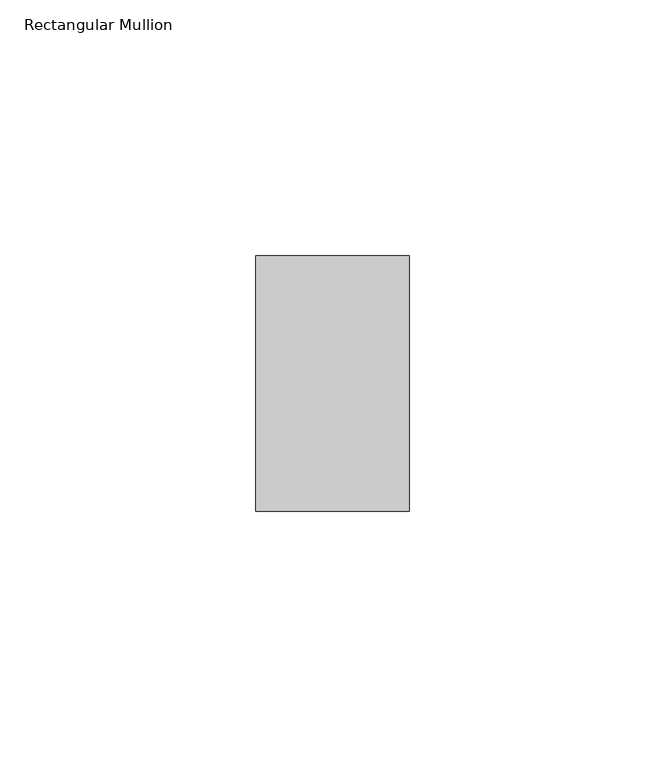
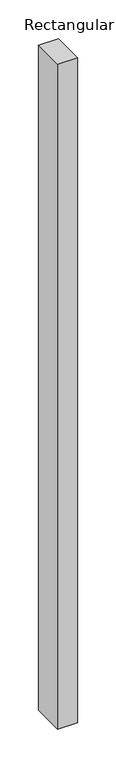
"""IFC4 building model written with IfcOpenShell, lengths in millimetres: member geometry, Rectangular Mullion : ARQ_TV_MULL_50x30mm."""

import ifcopenshell
import ifcopenshell.guid

model = None  # the IFC model being written
_history = None  # IfcOwnerHistory: only IFC2X3 demands one
_inside = {}  # id of a spatial element -> (the spatial element, [elements in it])
_under = {}  # id of a project, library or spatial element -> (it, [spatial elements below it])
_declared = {}  # id of a project -> (the project, [libraries it declares])
_typed = {}  # id of a type object -> (the type object, [elements of that type])
_made_of = {}  # id of a material, layer set ... -> (it, [elements and type objects made of it])


def new_model(schema):
    """Start an empty IFC model of exactly this schema.

    Asked for "IFC4X3", IfcOpenShell would pick the latest addendum, in which some entities
    have other attributes; the version numbers below select the first issue.
    IFC2X3 requires an IfcOwnerHistory on every rooted entity: one is made here for all.
    """
    global model, _history
    if schema == "IFC4X3":
        model = ifcopenshell.file(schema_version=(4, 3, 0, 0))
    else:
        model = ifcopenshell.file(schema=schema)
    _inside.clear()
    _under.clear()
    _declared.clear()
    _typed.clear()
    _made_of.clear()
    _history = None
    if model.schema == "IFC2X3":
        org = make("IfcOrganization", Name="unknown")
        user = make(
            "IfcPersonAndOrganization",
            ThePerson=make("IfcPerson", FamilyName="unknown"),
            TheOrganization=org,
        )
        app = make(
            "IfcApplication",
            ApplicationDeveloper=org,
            Version="unknown",
            ApplicationFullName="unknown",
            ApplicationIdentifier="unknown",
        )
        _history = make(
            "IfcOwnerHistory",
            OwningUser=user,
            OwningApplication=app,
            ChangeAction="ADDED",
            CreationDate=0,
        )
    return model


def make(cls, **values):
    """One entity of the class cls with the attributes given. An attribute that is None is left unset."""
    return model.create_entity(
        cls, **{name: value for name, value in values.items() if value is not None}
    )


def rooted(cls, **values):
    """An entity with a GlobalId (a new one), such as an element, a storey or a relation."""
    return make(cls, GlobalId=ifcopenshell.guid.new(), OwnerHistory=_history, **values)


def si_unit(unit_type, name, prefix=None):
    """IfcSIUnit, for example si_unit("LENGTHUNIT", "METRE", prefix="MILLI")."""
    return make("IfcSIUnit", UnitType=unit_type, Prefix=prefix, Name=name)


def assignment(units):
    """IfcUnitAssignment: the units of a project."""
    return None if units is None else make("IfcUnitAssignment", Units=units)


def point(xyz):
    """IfcCartesianPoint."""
    return None if xyz is None else make("IfcCartesianPoint", Coordinates=xyz)


def direction(xyz):
    """IfcDirection."""
    return None if xyz is None else make("IfcDirection", DirectionRatios=xyz)


def frame(location, z_axis=None, x_axis=None):
    """IfcAxis2Placement3D, a coordinate frame: its origin and axes. An axis left out is left unset."""
    return make(
        "IfcAxis2Placement3D",
        Location=point(location),
        Axis=direction(z_axis),
        RefDirection=direction(x_axis),
    )


def origin():
    """The frame at (0, 0, 0) with its axes left unset."""
    return frame((0.0, 0.0, 0.0))


def place(relative_to, where):
    """IfcLocalPlacement: puts the frame where relative to a parent placement (None: the world)."""
    return make(
        "IfcLocalPlacement", PlacementRelTo=relative_to, RelativePlacement=where
    )


def context(
    kind, dimensions, precision=None, world=None, true_north=None, identifier=None
):
    """IfcGeometricRepresentationContext, for example the 3D "Model" context."""
    return make(
        "IfcGeometricRepresentationContext",
        ContextIdentifier=identifier,
        ContextType=kind,
        CoordinateSpaceDimension=dimensions,
        Precision=precision,
        WorldCoordinateSystem=world,
        TrueNorth=true_north,
    )


def project(units=None, contexts=None):
    """IfcProject with its units and contexts."""
    return rooted(
        "IfcProject",
        Name="project",
        RepresentationContexts=contexts,
        UnitsInContext=assignment(units),
    )


def spatial(cls, under=None, at=None, **own):
    """A site, building, storey or space (cls), placed at a placement, below another one or the project."""
    s = rooted(cls, ObjectPlacement=at, **own)
    if under is not None:
        _under.setdefault(under.id(), (under, []))[1].append(s)
    return s


def polyline(points):
    """IfcPolyline through the points."""
    return make("IfcPolyline", Points=[point(p) for p in points])


def outline(outer, holes=None, kind="AREA"):
    """IfcArbitraryClosedProfileDef: a profile drawn as a closed curve; with holes, ...WithVoids."""
    if holes is None:
        return make("IfcArbitraryClosedProfileDef", ProfileType=kind, OuterCurve=outer)
    return make(
        "IfcArbitraryProfileDefWithVoids",
        ProfileType=kind,
        OuterCurve=outer,
        InnerCurves=holes,
    )


def extrude(swept, where, along, depth):
    """IfcExtrudedAreaSolid: the profile swept, set in the frame where, extruded along a direction by depth."""
    return make(
        "IfcExtrudedAreaSolid",
        SweptArea=swept,
        Position=where,
        ExtrudedDirection=direction(along),
        Depth=depth,
    )


def shape(context_of_items, identifier, shape_type, items):
    """IfcShapeRepresentation: the items that make up one representation, for example the "Body"."""
    return make(
        "IfcShapeRepresentation",
        ContextOfItems=context_of_items,
        RepresentationIdentifier=identifier,
        RepresentationType=shape_type,
        Items=items,
    )


def source(mapping_origin, context_of_items, identifier, shape_type, items):
    """IfcRepresentationMap: a shape defined once, which mapped items show again and again."""
    return make(
        "IfcRepresentationMap",
        MappingOrigin=mapping_origin,
        MappedRepresentation=shape(context_of_items, identifier, shape_type, items),
    )


def transform(
    local_origin,
    x_axis=None,
    y_axis=None,
    z_axis=None,
    scale=None,
    scale2=None,
    scale3=None,
    uniform=True,
):
    """IfcCartesianTransformationOperator3D, or its non-uniform kind. x_axis, y_axis, z_axis: its Axis1, 2, 3."""
    if uniform:
        return make(
            "IfcCartesianTransformationOperator3D",
            Axis1=direction(x_axis),
            Axis2=direction(y_axis),
            LocalOrigin=point(local_origin),
            Scale=scale,
            Axis3=direction(z_axis),
        )
    return make(
        "IfcCartesianTransformationOperator3DnonUniform",
        Axis1=direction(x_axis),
        Axis2=direction(y_axis),
        LocalOrigin=point(local_origin),
        Scale=scale,
        Axis3=direction(z_axis),
        Scale2=scale2,
        Scale3=scale3,
    )


def mapped(mapping_source, mapping_target):
    """IfcMappedItem: shows the shape of a source again, moved by a transform."""
    return make(
        "IfcMappedItem", MappingSource=mapping_source, MappingTarget=mapping_target
    )


def made_of(thing, what):
    """Note that an element or type object is made of a material, layer set ...; save() writes the relation."""
    if what is not None:
        _made_of.setdefault(what.id(), (what, []))[1].append(thing)
    return thing


def element(
    cls,
    number,
    at=None,
    inside=None,
    cuts=None,
    type_object=None,
    material=None,
    context=None,
    identifier="Body",
    shape_type=None,
    held_by="IfcProductDefinitionShape",
    body=None,
    shapes=None,
    **own,
):
    """One element of the class cls, such as IfcWall. Its Tag is "e" and its number.

    at: its placement. inside: the storey or other place that contains it. cuts: it is an
    opening in that element (IfcRelVoidsElement). A single representation is given by context,
    identifier, shape_type and body (its items); several are given by shapes. held_by: the class
    of the entity that holds the representations. save() writes the other relations.
    """
    e = rooted(cls, Tag="e%d" % number, ObjectPlacement=at, **own)
    if body is not None:
        shapes = [shape(context, identifier, shape_type, body)]
    if shapes is not None:
        e.Representation = make(held_by, Representations=shapes)
    if inside is not None:
        _inside.setdefault(inside.id(), (inside, []))[1].append(e)
    if cuts is not None:
        rooted(
            "IfcRelVoidsElement", RelatingBuildingElement=cuts, RelatedOpeningElement=e
        )
    if type_object is not None:
        _typed.setdefault(type_object.id(), (type_object, []))[1].append(e)
    return made_of(e, material)


def aggregate(whole, parts):
    """IfcRelAggregates: a whole, such as a stair, and the parts it consists of."""
    return rooted("IfcRelAggregates", RelatingObject=whole, RelatedObjects=parts)


def save(model, path):
    """Write the relations noted so far, then the file.

    IfcRelAggregates (storeys below a building ...), IfcRelContainedInSpatialStructure (elements
    in a storey), IfcRelDefinesByType, IfcRelAssociatesMaterial and IfcRelDeclares: one each for
    every whole, place, type object, material and project.
    """
    for whole, parts in _under.values():
        aggregate(whole, parts)
    for where, things in _inside.values():
        rooted(
            "IfcRelContainedInSpatialStructure",
            RelatedElements=things,
            RelatingStructure=where,
        )
    for kind, things in _typed.values():
        rooted("IfcRelDefinesByType", RelatedObjects=things, RelatingType=kind)
    for what, things in _made_of.values():
        rooted("IfcRelAssociatesMaterial", RelatedObjects=things, RelatingMaterial=what)
    for by, libraries in _declared.values():
        rooted("IfcRelDeclares", RelatingContext=by, RelatedDefinitions=libraries)
    model.write(path)


def rectangular_mullion_550d9bc0(model_context):
    return source(origin(), model_context, "Body", "SweptSolid", [
        extrude(outline(polyline([(15.0, 25.0), (15.0, -25.0), (-15.0, -25.0), (-15.0, 25.0), (15.0, 25.0)])), frame((0.0, 0.0, -1052.6872549), z_axis=(0.0, 0.0, 1.0), x_axis=(1.0, 0.0, 0.0)), (0.0, 0.0, 1.0), 1052.6872549),
    ])


if __name__ == "__main__":
    model = new_model("IFC4")
    model_context = context("Model", 3, world=origin())
    ifc_project = project(units=[si_unit("LENGTHUNIT", "METRE", prefix="MILLI")], contexts=[model_context])
    site = spatial("IfcSite", under=ifc_project)
    building = spatial("IfcBuilding", under=site)
    placement = place(None, origin())
    rectangular_mullion_shape = rectangular_mullion_550d9bc0(model_context)
    element("IfcMember", 1, ObjectType="Rectangular Mullion : ARQ_TV_MULL_50x30mm", at=placement, inside=building, context=model_context, shape_type="MappedRepresentation", body=[
        mapped(rectangular_mullion_shape, transform((0.0, 0.0, 0.0), x_axis=(1.0, 0.0, 0.0), y_axis=(0.0, 1.0, 0.0), z_axis=(0.0, 0.0, 1.0))),
    ])
    save(model, "model.ifc")
